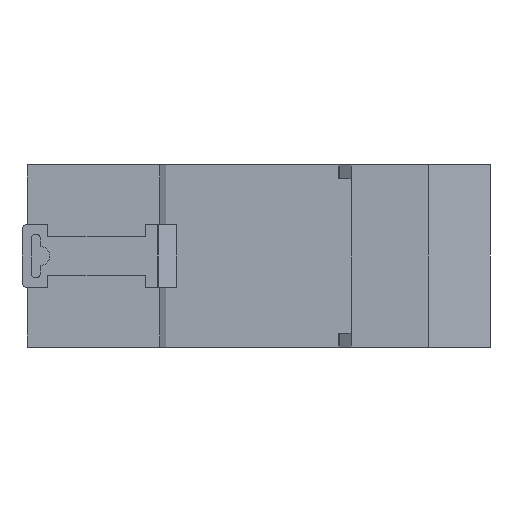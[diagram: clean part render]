
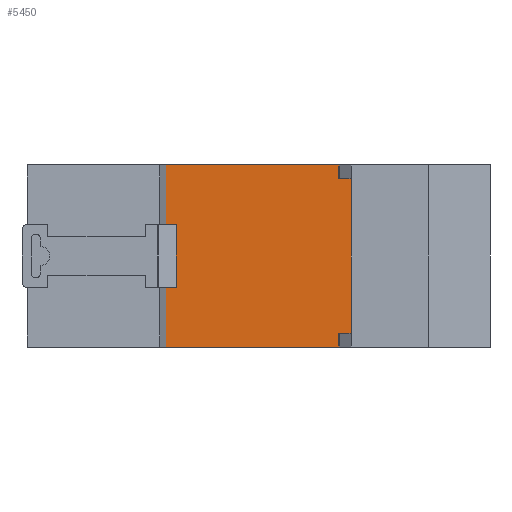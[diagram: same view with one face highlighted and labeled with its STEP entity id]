
A CAD part, left-side view. The second image highlights one B-rep face of the part: STEP entity #5450.
In plain terms, the highlighted planar face has unit normal (-1, 0, 0).
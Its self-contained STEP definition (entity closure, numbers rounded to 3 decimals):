
#59 = CARTESIAN_POINT ( 'NONE',  ( -60., -4.25, 35.4 ) ) ;
#334 = CARTESIAN_POINT ( 'NONE',  ( -60., -40.25, 35.4 ) ) ;
#572 = VERTEX_POINT ( 'NONE', #8856 ) ;
#601 = LINE ( 'NONE', #2781, #9541 ) ;
#1123 = AXIS2_PLACEMENT_3D ( 'NONE', #59, #1793, #2629 ) ;
#1793 = DIRECTION ( 'NONE',  ( 1., 0., 0. ) ) ;
#1832 = DIRECTION ( 'NONE',  ( 0., -1., 0. ) ) ;
#2064 = DIRECTION ( 'NONE',  ( 0., 0., -1. ) ) ;
#2100 = VECTOR ( 'NONE', #9959, 1000. ) ;
#2629 = DIRECTION ( 'NONE',  ( 0., 1., 0. ) ) ;
#2743 = CARTESIAN_POINT ( 'NONE',  ( -60., -40.25, 0. ) ) ;
#2781 = CARTESIAN_POINT ( 'NONE',  ( -60., -4.25, 0. ) ) ;
#3419 = EDGE_CURVE ( 'NONE', #10215, #572, #6006, .T. ) ;
#3610 = DIRECTION ( 'NONE',  ( 0., -1., 0. ) ) ;
#4274 = EDGE_CURVE ( 'NONE', #10215, #8672, #10335, .T. ) ;
#4365 = CARTESIAN_POINT ( 'NONE',  ( -60., -4.25, 35.4 ) ) ;
#4664 = ORIENTED_EDGE ( 'NONE', *, *, #4274, .F. ) ;
#4970 = VERTEX_POINT ( 'NONE', #2743 ) ;
#5115 = EDGE_CURVE ( 'NONE', #8672, #4970, #9332, .T. ) ;
#5163 = ORIENTED_EDGE ( 'NONE', *, *, #5115, .F. ) ;
#5450 = ADVANCED_FACE ( 'NONE', ( #10549 ), #8604, .F. ) ;
#6006 = LINE ( 'NONE', #8159, #2100 ) ;
#6661 = EDGE_CURVE ( 'NONE', #572, #4970, #601, .T. ) ;
#6671 = EDGE_LOOP ( 'NONE', ( #7102, #5163, #4664, #7165 ) ) ;
#6817 = CARTESIAN_POINT ( 'NONE',  ( -60., -4.25, 35.4 ) ) ;
#7102 = ORIENTED_EDGE ( 'NONE', *, *, #6661, .T. ) ;
#7165 = ORIENTED_EDGE ( 'NONE', *, *, #3419, .T. ) ;
#7756 = VECTOR ( 'NONE', #1832, 1000. ) ;
#8159 = CARTESIAN_POINT ( 'NONE',  ( -60., -4.25, 35.4 ) ) ;
#8360 = VECTOR ( 'NONE', #2064, 1000. ) ;
#8604 = PLANE ( 'NONE',  #1123 ) ;
#8672 = VERTEX_POINT ( 'NONE', #9425 ) ;
#8856 = CARTESIAN_POINT ( 'NONE',  ( -60., -4.25, 0. ) ) ;
#9332 = LINE ( 'NONE', #334, #8360 ) ;
#9425 = CARTESIAN_POINT ( 'NONE',  ( -60., -40.25, 35.4 ) ) ;
#9541 = VECTOR ( 'NONE', #3610, 1000. ) ;
#9959 = DIRECTION ( 'NONE',  ( 0., 0., -1. ) ) ;
#10215 = VERTEX_POINT ( 'NONE', #6817 ) ;
#10335 = LINE ( 'NONE', #4365, #7756 ) ;
#10549 = FACE_OUTER_BOUND ( 'NONE', #6671, .T. ) ;
